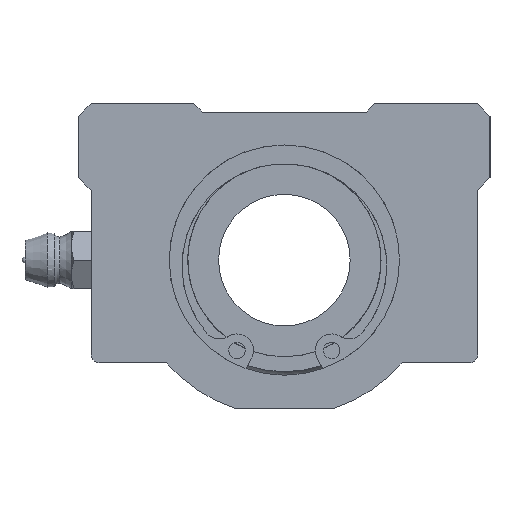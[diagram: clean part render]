
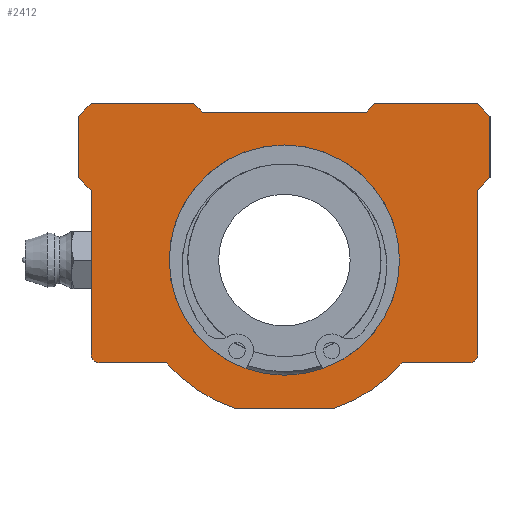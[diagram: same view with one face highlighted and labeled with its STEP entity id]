
A CAD part, left-side view. The second image highlights one B-rep face of the part: STEP entity #2412.
In plain terms, the highlighted planar face has unit normal (-1, 0, 0).
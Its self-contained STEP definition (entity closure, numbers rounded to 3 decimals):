
#1529=CARTESIAN_POINT('',(0.0,14.,0.));
#1530=VERTEX_POINT('',#1529);
#1531=CARTESIAN_POINT('',(0.0,0.0,0.0));
#1532=DIRECTION('',(1.0,0.0,0.0));
#1533=DIRECTION('',(0.0,-1.0,0.0));
#1534=AXIS2_PLACEMENT_3D('',#1531,#1532,#1533);
#1535=CIRCLE('',#1534,14.);
#1536=EDGE_CURVE('',#1530,#1530,#1535,.T.);
#1753=CARTESIAN_POINT('',(0.0,25.0,17.5));
#1754=VERTEX_POINT('',#1753);
#1769=CARTESIAN_POINT('',(0.0,25.0,10.));
#1770=VERTEX_POINT('',#1769);
#1777=CARTESIAN_POINT('',(0.0,25.0,10.));
#1778=DIRECTION('',(0.0,0.0,1.0));
#1779=VECTOR('',#1778,7.5);
#1780=LINE('',#1777,#1779);
#1781=EDGE_CURVE('',#1770,#1754,#1780,.T.);
#1791=CARTESIAN_POINT('',(0.0,23.5,-11.5));
#1792=VERTEX_POINT('',#1791);
#1801=CARTESIAN_POINT('',(0.0,23.5,8.5));
#1802=VERTEX_POINT('',#1801);
#1803=CARTESIAN_POINT('',(0.0,23.5,-11.5));
#1804=DIRECTION('',(0.0,0.0,1.0));
#1805=VECTOR('',#1804,20.);
#1806=LINE('',#1803,#1805);
#1807=EDGE_CURVE('',#1792,#1802,#1806,.T.);
#1892=CARTESIAN_POINT('',(0.0,6.083,-18.));
#1893=VERTEX_POINT('',#1892);
#1900=CARTESIAN_POINT('',(0.0,14.309,-12.5));
#1901=VERTEX_POINT('',#1900);
#1902=CARTESIAN_POINT('',(0.0,0.0,0.0));
#1903=DIRECTION('',(1.,0.0,0.0));
#1904=DIRECTION('',(0.0,0.32,-0.947));
#1905=AXIS2_PLACEMENT_3D('',#1902,#1903,#1904);
#1906=CIRCLE('',#1905,19.0);
#1907=EDGE_CURVE('',#1893,#1901,#1906,.T.);
#1931=CARTESIAN_POINT('',(0.0,-6.083,-18.));
#1932=VERTEX_POINT('',#1931);
#1939=CARTESIAN_POINT('',(0.0,-6.083,-18.));
#1940=DIRECTION('',(0.0,1.0,0.0));
#1941=VECTOR('',#1940,12.166);
#1942=LINE('',#1939,#1941);
#1943=EDGE_CURVE('',#1932,#1893,#1942,.T.);
#1963=CARTESIAN_POINT('',(0.0,-14.309,-12.5));
#1964=VERTEX_POINT('',#1963);
#1971=CARTESIAN_POINT('',(0.0,0.0,0.0));
#1972=DIRECTION('',(1.,0.0,0.0));
#1973=DIRECTION('',(0.0,0.32,-0.947));
#1974=AXIS2_PLACEMENT_3D('',#1971,#1972,#1973);
#1975=CIRCLE('',#1974,19.0);
#1976=EDGE_CURVE('',#1964,#1932,#1975,.T.);
#1987=CARTESIAN_POINT('',(0.0,-22.5,-12.5));
#1988=VERTEX_POINT('',#1987);
#1997=CARTESIAN_POINT('',(0.0,-22.5,-12.5));
#1998=DIRECTION('',(0.0,1.0,0.0));
#1999=VECTOR('',#1998,8.191);
#2000=LINE('',#1997,#1999);
#2001=EDGE_CURVE('',#1988,#1964,#2000,.T.);
#2024=CARTESIAN_POINT('',(0.0,-25.0,17.5));
#2025=VERTEX_POINT('',#2024);
#2034=CARTESIAN_POINT('',(0.0,-25.0,10.));
#2035=VERTEX_POINT('',#2034);
#2036=CARTESIAN_POINT('',(0.0,-25.0,17.5));
#2037=DIRECTION('',(0.0,0.0,-1.0));
#2038=VECTOR('',#2037,7.5);
#2039=LINE('',#2036,#2038);
#2040=EDGE_CURVE('',#2025,#2035,#2039,.T.);
#2066=CARTESIAN_POINT('',(0.0,-23.5,19.));
#2067=VERTEX_POINT('',#2066);
#2082=CARTESIAN_POINT('',(0.0,-11.0,19.));
#2083=VERTEX_POINT('',#2082);
#2090=CARTESIAN_POINT('',(0.0,-11.0,19.));
#2091=DIRECTION('',(0.0,-1.0,0.0));
#2092=VECTOR('',#2091,12.5);
#2093=LINE('',#2090,#2092);
#2094=EDGE_CURVE('',#2083,#2067,#2093,.T.);
#2117=CARTESIAN_POINT('',(0.0,-23.5,19.));
#2118=DIRECTION('',(0.0,-0.707,-0.707));
#2119=VECTOR('',#2118,2.121);
#2120=LINE('',#2117,#2119);
#2121=EDGE_CURVE('',#2067,#2025,#2120,.T.);
#2132=CARTESIAN_POINT('',(0.0,23.5,19.));
#2133=VERTEX_POINT('',#2132);
#2142=CARTESIAN_POINT('',(0.0,11.0,19.));
#2143=VERTEX_POINT('',#2142);
#2144=CARTESIAN_POINT('',(0.0,23.5,19.));
#2145=DIRECTION('',(0.0,-1.0,0.0));
#2146=VECTOR('',#2145,12.5);
#2147=LINE('',#2144,#2146);
#2148=EDGE_CURVE('',#2133,#2143,#2147,.T.);
#2185=CARTESIAN_POINT('',(0.0,25.0,17.5));
#2186=DIRECTION('',(0.0,-0.707,0.707));
#2187=VECTOR('',#2186,2.121);
#2188=LINE('',#2185,#2187);
#2189=EDGE_CURVE('',#1754,#2133,#2188,.T.);
#2200=CARTESIAN_POINT('',(0.0,-10.0,18.0));
#2201=VERTEX_POINT('',#2200);
#2202=CARTESIAN_POINT('',(0.0,-10.0,18.0));
#2203=DIRECTION('',(0.0,-0.707,0.707));
#2204=VECTOR('',#2203,1.414);
#2205=LINE('',#2202,#2204);
#2206=EDGE_CURVE('',#2201,#2083,#2205,.T.);
#2231=CARTESIAN_POINT('',(0.0,10.0,18.0));
#2232=VERTEX_POINT('',#2231);
#2241=CARTESIAN_POINT('',(0.0,10.0,18.0));
#2242=DIRECTION('',(0.0,-1.0,0.0));
#2243=VECTOR('',#2242,20.0);
#2244=LINE('',#2241,#2243);
#2245=EDGE_CURVE('',#2232,#2201,#2244,.T.);
#2262=CARTESIAN_POINT('',(0.0,11.0,19.));
#2263=DIRECTION('',(0.0,-0.707,-0.707));
#2264=VECTOR('',#2263,1.414);
#2265=LINE('',#2262,#2264);
#2266=EDGE_CURVE('',#2143,#2232,#2265,.T.);
#2284=CARTESIAN_POINT('',(0.0,-23.5,8.5));
#2285=VERTEX_POINT('',#2284);
#2286=CARTESIAN_POINT('',(0.0,-25.0,10.));
#2287=DIRECTION('',(0.0,0.707,-0.707));
#2288=VECTOR('',#2287,2.121);
#2289=LINE('',#2286,#2288);
#2290=EDGE_CURVE('',#2035,#2285,#2289,.T.);
#2315=CARTESIAN_POINT('',(0.0,23.5,8.5));
#2316=DIRECTION('',(0.0,0.707,0.707));
#2317=VECTOR('',#2316,2.121);
#2318=LINE('',#2315,#2317);
#2319=EDGE_CURVE('',#1802,#1770,#2318,.T.);
#2339=CARTESIAN_POINT('',(0.0,-23.5,-11.5));
#2340=VERTEX_POINT('',#2339);
#2354=CARTESIAN_POINT('',(0.0,-23.5,8.5));
#2355=DIRECTION('',(0.0,0.0,-1.0));
#2356=VECTOR('',#2355,20.);
#2357=LINE('',#2354,#2356);
#2358=EDGE_CURVE('',#2285,#2340,#2357,.T.);
#2363=CARTESIAN_POINT('',(0.0,0.,2.049));
#2364=DIRECTION('',(1.0,0.0,0.0));
#2365=DIRECTION('',(0.0,0.0,-1.0));
#2366=AXIS2_PLACEMENT_3D('',#2363,#2364,#2365);
#2367=PLANE('',#2366);
#2368=CARTESIAN_POINT('',(0.0,22.5,-12.5));
#2369=VERTEX_POINT('',#2368);
#2370=CARTESIAN_POINT('',(0.0,22.5,-11.5));
#2371=DIRECTION('',(1.0,0.0,0.0));
#2372=DIRECTION('',(0.0,0.707,-0.707));
#2373=AXIS2_PLACEMENT_3D('',#2370,#2371,#2372);
#2374=CIRCLE('',#2373,1.);
#2375=EDGE_CURVE('',#2369,#1792,#2374,.T.);
#2376=ORIENTED_EDGE('',*,*,#2375,.F.);
#2377=CARTESIAN_POINT('',(0.0,14.309,-12.5));
#2378=DIRECTION('',(0.0,1.0,0.0));
#2379=VECTOR('',#2378,8.191);
#2380=LINE('',#2377,#2379);
#2381=EDGE_CURVE('',#1901,#2369,#2380,.T.);
#2382=ORIENTED_EDGE('',*,*,#2381,.F.);
#2383=ORIENTED_EDGE('',*,*,#1907,.F.);
#2384=ORIENTED_EDGE('',*,*,#1943,.F.);
#2385=ORIENTED_EDGE('',*,*,#1976,.F.);
#2386=ORIENTED_EDGE('',*,*,#2001,.F.);
#2387=CARTESIAN_POINT('',(0.0,-22.5,-11.5));
#2388=DIRECTION('',(1.0,0.0,0.0));
#2389=DIRECTION('',(0.0,-0.707,-0.707));
#2390=AXIS2_PLACEMENT_3D('',#2387,#2388,#2389);
#2391=CIRCLE('',#2390,1.);
#2392=EDGE_CURVE('',#2340,#1988,#2391,.T.);
#2393=ORIENTED_EDGE('',*,*,#2392,.F.);
#2394=ORIENTED_EDGE('',*,*,#2358,.F.);
#2395=ORIENTED_EDGE('',*,*,#2290,.F.);
#2396=ORIENTED_EDGE('',*,*,#2040,.F.);
#2397=ORIENTED_EDGE('',*,*,#2121,.F.);
#2398=ORIENTED_EDGE('',*,*,#2094,.F.);
#2399=ORIENTED_EDGE('',*,*,#2206,.F.);
#2400=ORIENTED_EDGE('',*,*,#2245,.F.);
#2401=ORIENTED_EDGE('',*,*,#2266,.F.);
#2402=ORIENTED_EDGE('',*,*,#2148,.F.);
#2403=ORIENTED_EDGE('',*,*,#2189,.F.);
#2404=ORIENTED_EDGE('',*,*,#1781,.F.);
#2405=ORIENTED_EDGE('',*,*,#2319,.F.);
#2406=ORIENTED_EDGE('',*,*,#1807,.F.);
#2407=EDGE_LOOP('',(#2376,#2382,#2383,#2384,#2385,#2386,#2393,#2394,#2395,#2396,#2397,#2398,#2399,#2400,#2401,#2402,#2403,#2404,#2405,#2406));
#2408=FACE_OUTER_BOUND('',#2407,.T.);
#2409=ORIENTED_EDGE('',*,*,#1536,.T.);
#2410=EDGE_LOOP('',(#2409));
#2411=FACE_BOUND('',#2410,.T.);
#2412=ADVANCED_FACE('',(#2408,#2411),#2367,.F.);
